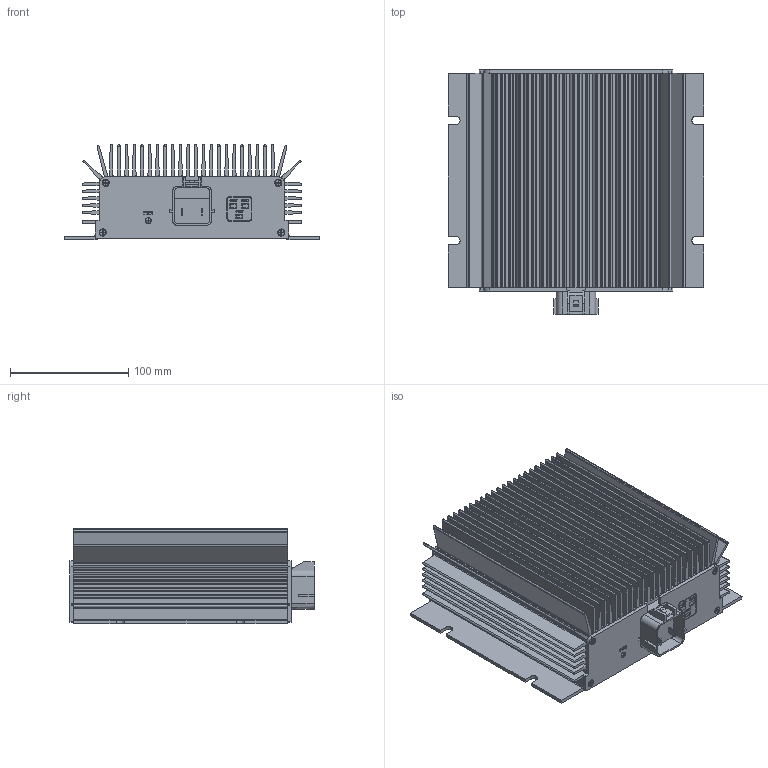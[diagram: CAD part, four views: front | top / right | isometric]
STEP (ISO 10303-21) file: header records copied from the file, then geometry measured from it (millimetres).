
FILE_DESCRIPTION(('CATIA V6 STEP'),'2;1');
FILE_NAME('D:\OneDrive - i0212078\OneDrive - Doosan\3. Product\1. G2 StageV (Bosch)\1. Industrial\3. Drawings\4. Option\24V_Equalizer\Drawing\300612-00188.stp','2021-04-14T07:40:25+00:00',('none'),('none'),'3DEXPERIENCE Platform3DEXPERIENCE R2014x HotFix 24','3DEXPERIENCE Platform STEP AP203','none');
FILE_SCHEMA(('CONFIG_CONTROL_DESIGN'));
Bounding box: 215.9 x 206.5 x 80.5 mm (x, y, z)
Surface area: 606405.3 mm2 (no closed solid volume)
Topology: 0 solids, 1335 shells, 1421 faces, 7830 edges, 7735 vertices
Faces by surface type: plane 861, bspline 560
Entity records: 86286 total; most frequent: CARTESIAN_POINT 36685, ORIENTED_EDGE 7908, EDGE_CURVE 7822, VERTEX_POINT 7736, DIRECTION 6398, VECTOR 4676, LINE 4676, EDGE_LOOP 1522
